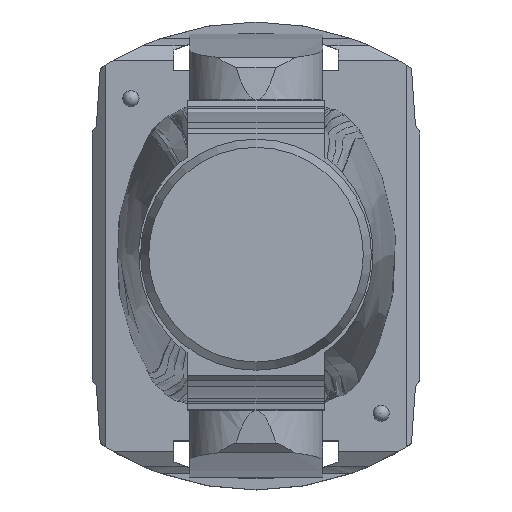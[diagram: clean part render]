
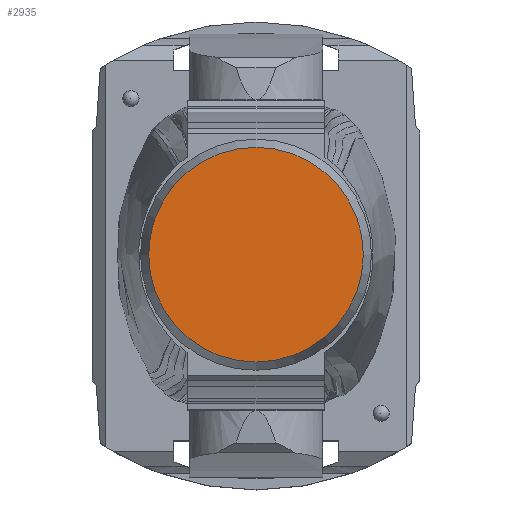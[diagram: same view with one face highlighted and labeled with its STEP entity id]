
A CAD part, top view. The second image highlights one B-rep face of the part: STEP entity #2935.
In plain terms, the highlighted planar face has unit normal (0, 0, 1).
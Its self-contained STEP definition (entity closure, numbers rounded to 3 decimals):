
#98=CIRCLE('',#3156,109.861);
#176=PLANE('',#3157);
#1225=ORIENTED_EDGE('',*,*,#1653,.F.);
#1653=EDGE_CURVE('',#1946,#1946,#98,.T.);
#1946=VERTEX_POINT('',#7132);
#2539=EDGE_LOOP('',(#1225));
#2724=FACE_BOUND('',#2539,.T.);
#2935=ADVANCED_FACE('',(#2724),#176,.F.);
#3156=AXIS2_PLACEMENT_3D('',#7131,#3732,#3733);
#3157=AXIS2_PLACEMENT_3D('',#7133,#3734,#3735);
#3732=DIRECTION('',(0.,0.,-1.));
#3733=DIRECTION('',(-1.,0.,0.));
#3734=DIRECTION('',(0.,0.,-1.));
#3735=DIRECTION('',(-1.,0.,0.));
#7131=CARTESIAN_POINT('',(0.,0.,819.401));
#7132=CARTESIAN_POINT('',(-109.861,0.,819.401));
#7133=CARTESIAN_POINT('',(0.,0.,819.401));
